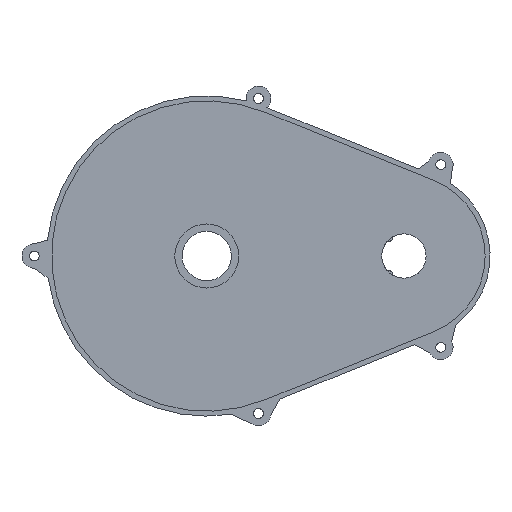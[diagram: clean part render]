
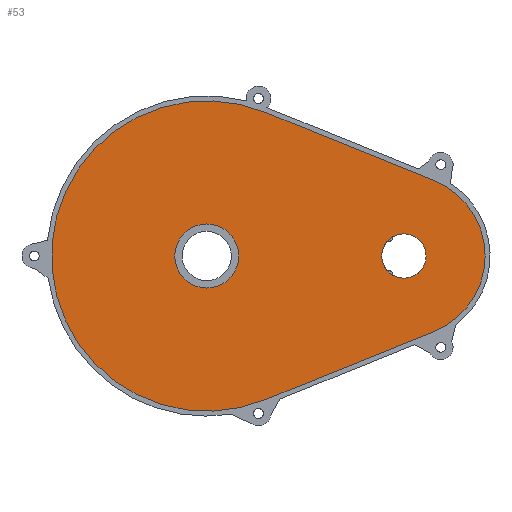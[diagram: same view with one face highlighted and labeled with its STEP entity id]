
A CAD part, front view. The second image highlights one B-rep face of the part: STEP entity #53.
In plain terms, the highlighted planar face has unit normal (0, -1, 0).
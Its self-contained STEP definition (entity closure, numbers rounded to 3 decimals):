
#53=ADVANCED_FACE('',(#107,#109,#111),#113,.T.);
#107=FACE_BOUND('',#108,.T.);
#108=EDGE_LOOP('',(#565,#566,#567,#568));
#109=FACE_BOUND('',#110,.T.);
#110=EDGE_LOOP('',(#569));
#111=FACE_BOUND('',#112,.T.);
#112=EDGE_LOOP('',(#570));
#113=PLANE('',#114);
#114=AXIS2_PLACEMENT_3D('',#115,#116,#117);
#115=CARTESIAN_POINT('',(0.,-42.,0.));
#116=DIRECTION('',(0.,-1.,0.));
#117=DIRECTION('',(1.,0.,0.));
#565=ORIENTED_EDGE('',*,*,#789,.F.);
#566=ORIENTED_EDGE('',*,*,#790,.F.);
#567=ORIENTED_EDGE('',*,*,#791,.F.);
#568=ORIENTED_EDGE('',*,*,#792,.F.);
#569=ORIENTED_EDGE('',*,*,#793,.T.);
#570=ORIENTED_EDGE('',*,*,#794,.F.);
#789=EDGE_CURVE('',#901,#902,#903,.F.);
#790=EDGE_CURVE('',#904,#901,#905,.F.);
#791=EDGE_CURVE('',#906,#904,#907,.F.);
#792=EDGE_CURVE('',#902,#906,#908,.F.);
#793=EDGE_CURVE('',#909,#909,#910,.F.);
#794=EDGE_CURVE('',#911,#911,#912,.T.);
#901=VERTEX_POINT('',#1099);
#902=VERTEX_POINT('',#1100);
#903=LINE('',#1101,#1102);
#904=VERTEX_POINT('',#1104);
#905=CIRCLE('',#1105,33.);
#906=VERTEX_POINT('',#1109);
#907=LINE('',#1110,#1111);
#908=CIRCLE('',#1113,63.);
#909=VERTEX_POINT('',#1117);
#910=CIRCLE('',#1118,9.);
#911=VERTEX_POINT('',#1122);
#912=CIRCLE('',#1123,13.);
#1099=CARTESIAN_POINT('',(12.375,-42.,-30.592));
#1100=CARTESIAN_POINT('',(-56.375,-42.,-58.403));
#1101=CARTESIAN_POINT('',(-56.375,-42.,-58.403));
#1102=VECTOR('',#1103,1.);
#1103=DIRECTION('',(0.927,0.,0.375));
#1104=CARTESIAN_POINT('',(12.375,-42.,30.592));
#1105=AXIS2_PLACEMENT_3D('',#1106,#1107,#1108);
#1106=CARTESIAN_POINT('',(0.,-42.,0.));
#1107=DIRECTION('',(0.,-1.,0.));
#1108=DIRECTION('',(0.375,0.,-0.927));
#1109=CARTESIAN_POINT('',(-56.375,-42.,58.403));
#1110=CARTESIAN_POINT('',(12.375,-42.,30.592));
#1111=VECTOR('',#1112,1.);
#1112=DIRECTION('',(-0.927,0.,0.375));
#1113=AXIS2_PLACEMENT_3D('',#1114,#1115,#1116);
#1114=CARTESIAN_POINT('',(-80.,-42.,0.));
#1115=DIRECTION('',(0.,-1.,0.));
#1116=DIRECTION('',(0.375,0.,0.927));
#1117=CARTESIAN_POINT('',(-9.,-42.,0.));
#1118=AXIS2_PLACEMENT_3D('',#1119,#1120,#1121);
#1119=CARTESIAN_POINT('',(0.,-42.,0.));
#1120=DIRECTION('',(0.,-1.,0.));
#1121=DIRECTION('',(-1.,0.,0.));
#1122=CARTESIAN_POINT('',(-67.,-42.,0.));
#1123=AXIS2_PLACEMENT_3D('',#1124,#1125,#1126);
#1124=CARTESIAN_POINT('',(-80.,-42.,0.));
#1125=DIRECTION('',(0.,-1.,0.));
#1126=DIRECTION('',(1.,0.,0.));
